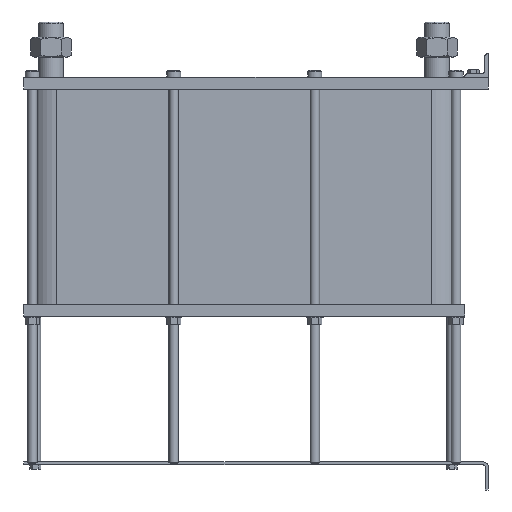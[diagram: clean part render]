
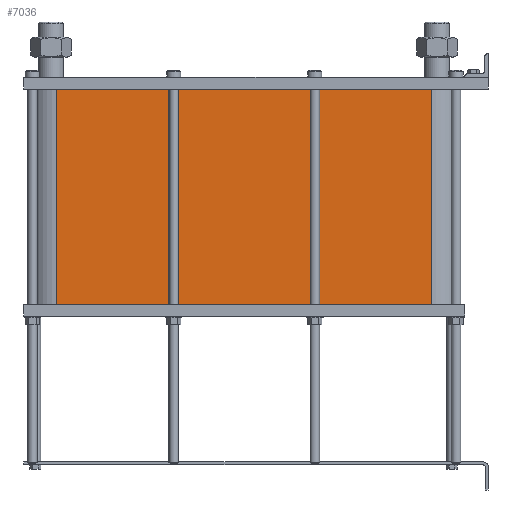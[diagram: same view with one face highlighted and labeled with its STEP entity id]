
A CAD part, left-side view. The second image highlights one B-rep face of the part: STEP entity #7036.
In plain terms, the highlighted planar face has unit normal (-1, 0, 0).
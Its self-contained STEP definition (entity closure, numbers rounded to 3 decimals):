
#999=LINE('',#15640,#1553);
#1031=LINE('',#15723,#1585);
#1032=LINE('',#15726,#1586);
#1033=LINE('',#15727,#1587);
#1553=VECTOR('',#9658,10.);
#1585=VECTOR('',#9736,10.);
#1586=VECTOR('',#9741,10.);
#1587=VECTOR('',#9742,10.);
#2117=FACE_OUTER_BOUND('',#2671,.T.);
#2671=EDGE_LOOP('',(#6246,#6247,#6248,#6249));
#3527=VERTEX_POINT('',#15634);
#3529=VERTEX_POINT('',#15638);
#3556=VERTEX_POINT('',#15720);
#3557=VERTEX_POINT('',#15722);
#4425=EDGE_CURVE('',#3529,#3527,#999,.T.);
#4466=EDGE_CURVE('',#3557,#3556,#1031,.T.);
#4468=EDGE_CURVE('',#3527,#3556,#1032,.T.);
#4469=EDGE_CURVE('',#3557,#3529,#1033,.T.);
#6246=ORIENTED_EDGE('',*,*,#4468,.F.);
#6247=ORIENTED_EDGE('',*,*,#4425,.F.);
#6248=ORIENTED_EDGE('',*,*,#4469,.F.);
#6249=ORIENTED_EDGE('',*,*,#4466,.T.);
#6608=PLANE('',#7812);
#7036=ADVANCED_FACE('',(#2117),#6608,.T.);
#7812=AXIS2_PLACEMENT_3D('',#15725,#9739,#9740);
#9658=DIRECTION('',(0.,0.,-1.));
#9736=DIRECTION('',(0.,0.,-1.));
#9739=DIRECTION('center_axis',(-1.,0.,0.));
#9740=DIRECTION('ref_axis',(0.,1.,0.));
#9741=DIRECTION('',(0.,1.,0.));
#9742=DIRECTION('',(0.,-1.,0.));
#15634=CARTESIAN_POINT('',(-72.,97.5,-365.8));
#15638=CARTESIAN_POINT('',(-72.,97.5,0.));
#15640=CARTESIAN_POINT('',(-72.,97.5,0.));
#15720=CARTESIAN_POINT('',(-72.,733.5,-365.8));
#15722=CARTESIAN_POINT('',(-72.,733.5,0.));
#15723=CARTESIAN_POINT('',(-72.,733.5,0.));
#15725=CARTESIAN_POINT('Origin',(-72.,97.5,0.));
#15726=CARTESIAN_POINT('',(-72.,256.5,-365.8));
#15727=CARTESIAN_POINT('',(-72.,733.5,0.));
